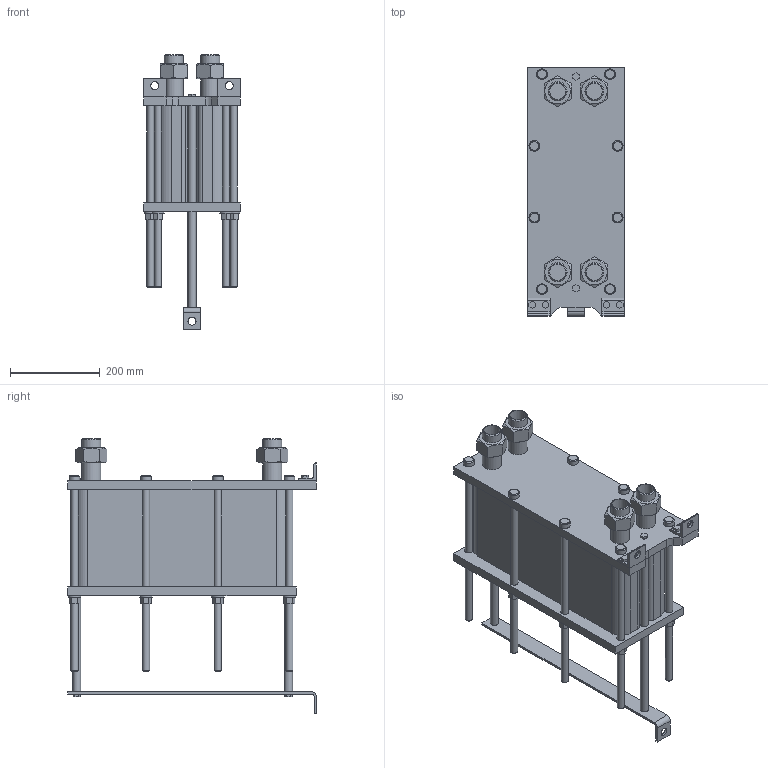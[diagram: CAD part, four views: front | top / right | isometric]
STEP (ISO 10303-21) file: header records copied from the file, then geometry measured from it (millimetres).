
FILE_DESCRIPTION(/* description */ (''),/* implementation_level */ '2;1');
FILE_NAME(/* name */ 'C:\Users\zhuro\Desktop\ENCO\TO\ЭН-004\ЭН-0,5-004-70-1.stp',/* time_stamp */ '2022-06-06T10:49:07+03:00',/* author */ ('zhuro'),/* organization */ (''),/* preprocessor_version */ 'ST-DEVELOPER v18.1',/* originating_system */ 'Autodesk Inventor 2022',/* authorisation */ '');
FILE_SCHEMA (('AUTOMOTIVE_DESIGN { 1 0 10303 214 3 1 1 }'));
Length unit declared in the file: millimetre
Products named in the file (1): ЭН-0,5-004-70-1
Bounding box: 216 x 555 x 613 mm (x, y, z)
Volume: 21923382.7 mm3; surface area: 1428707.2 mm2
Topology: 40 solids, 40 shells, 403 faces, 865 edges, 574 vertices
Faces by surface type: plane 272, cylinder 103, cone 28
Full cylindrical faces by diameter (mm): 10 x4, 16 x16, 18 x29, 20 x2, 24 x8, 28 x8, 36.3 x5, 42.3 x9
Entity records: 11137 total; most frequent: CARTESIAN_POINT 1939, DIRECTION 1879, ORIENTED_EDGE 1730, EDGE_CURVE 865, AXIS2_PLACEMENT_3D 658, VERTEX_POINT 574, LINE 563, VECTOR 563
